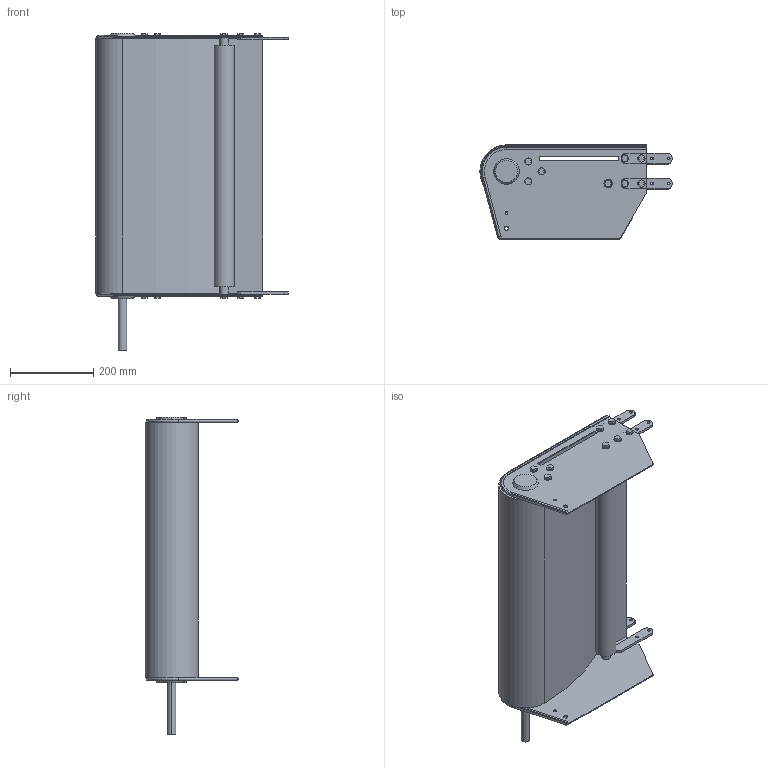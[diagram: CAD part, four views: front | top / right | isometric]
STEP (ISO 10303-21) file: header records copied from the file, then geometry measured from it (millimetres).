
FILE_DESCRIPTION (( 'STEP AP214' ), '1' );
FILE_NAME ('03.102D1R20.620 FS-620-MTS2-100.INOX Directe drive section right.STEP', '2025-02-04T12:38:39', ( '' ), ( '' ), 'SwSTEP 2.0', 'SolidWorks 2024', '' );
FILE_SCHEMA (( 'AUTOMOTIVE_DESIGN' ));
Length unit declared in the file: millimetre
Products named in the file (1): 03.102D1R20.620 FS-620-MTS2-100.INOX Directe drive section right
Bounding box: 461 x 225 x 761 mm (x, y, z)
Volume: 7300500.4 mm3; surface area: 1670301.4 mm2
Topology: 4 solids, 4 shells, 325 faces, 794 edges, 516 vertices
Faces by surface type: plane 223, cylinder 96, cone 4, torus 2
Entity records: 9602 total; most frequent: DIRECTION 1650, CARTESIAN_POINT 1636, ORIENTED_EDGE 1588, EDGE_CURVE 794, VECTOR 590, LINE 590, AXIS2_PLACEMENT_3D 530, VERTEX_POINT 516
